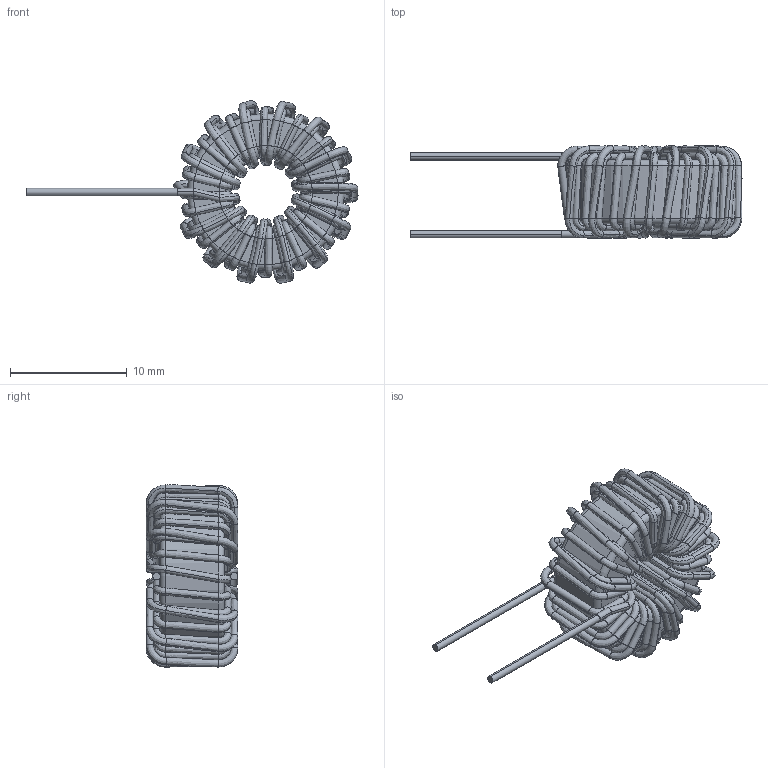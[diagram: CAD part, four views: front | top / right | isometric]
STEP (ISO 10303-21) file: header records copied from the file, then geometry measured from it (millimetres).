
FILE_DESCRIPTION (( 'STEP AP214' ), '1' );
FILE_NAME ('HF127-101M-3.2AV REV.B.STEP', '2018-11-30T08:25:57', ( '' ), ( '' ), 'SwSTEP 2.0', 'SolidWorks 2015', '' );
FILE_SCHEMA (( 'AUTOMOTIVE_DESIGN' ));
Length unit declared in the file: millimetre
Products named in the file (1): HF127-101M-3.2AV REV.B
Bounding box: 28.49 x 7.89 x 15.66 mm (x, y, z)
Volume: 837.8 mm3; surface area: 2237.6 mm2
Topology: 4 solids, 4 shells, 694 faces, 1392 edges, 706 vertices
Faces by surface type: bspline 666, cylinder 12, plane 8, torus 8
Entity records: 67265 total; most frequent: CARTESIAN_POINT 48993, ORIENTED_EDGE 2784, DIRECTION 1458, EDGE_CURVE 1392, AXIS2_PLACEMENT_3D 723, VERTEX_POINT 706, UNCERTAINTY_MEASURE_WITH_UNIT 700, MECHANICAL_DESIGN_GEOMETRIC_PRESENTATION_REPRESENTATION 699
